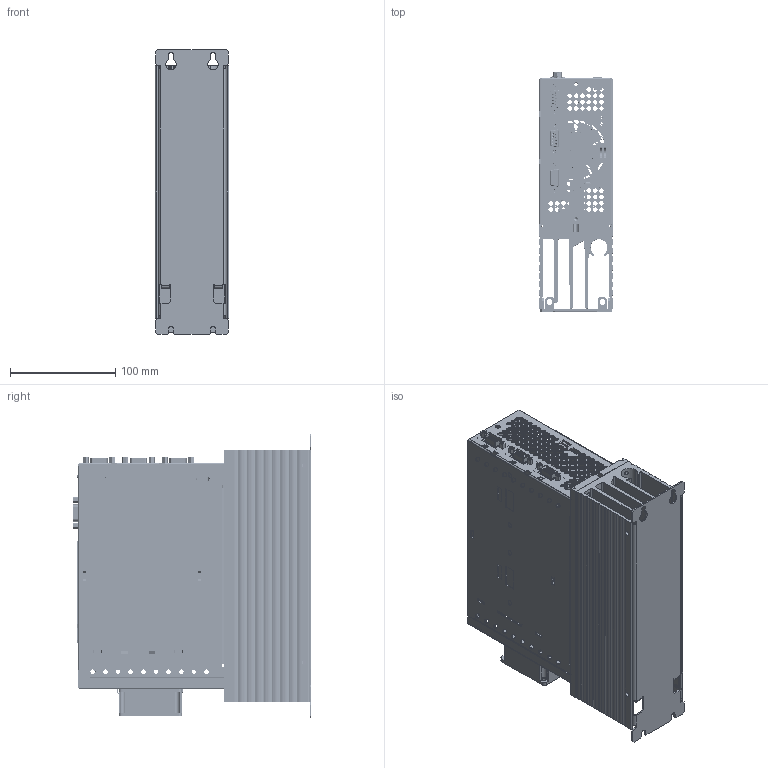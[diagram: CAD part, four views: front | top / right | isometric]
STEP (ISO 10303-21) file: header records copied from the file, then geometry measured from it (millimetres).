
FILE_DESCRIPTION (( 'STEP AP214' ), '1' );
FILE_NAME ('CDD34.006.W.STEP', '2010-09-20T13:13:48', ( 'Bereich' ), ( 'LTi DRiVES GmbH' ), 'SwSTEP 2.0', 'SolidWorks 2008', '' );
FILE_SCHEMA (( 'AUTOMOTIVE_DESIGN' ));
Length unit declared in the file: millimetre
Products named in the file (29): 0890.508.0_Standard; 0890.507.0_Standard; LÜFTER 60X60X25_Standard; 0931.508.0_Standard; DISTANZBOLZEN 107749_Standard; TEST_Standard; D_SUB_9POLIG_108581_Standard; gmstba_2.5-12-g-7.62_Standard; MSTBA_2.5-2-G1_Standard; MSTBA_2.5-2-G(1)1_Standard; D_SUB_15POLIG_Standard; polig-Stift_Standard; CDD34.006.W; 0890.503.0_Standard; 1001.575.0; 0931.502.0_Standard; 0931.520.0_Standard; Steuerprint_Standard; Steuerprint CDB-1; Self-clinching Nut_PMM_PEM S-M4-0 ZI--N; Drucktaster-105902; LED_3FACH_108455-1_Standard; LED_3FACH_108455; D-SUB 9polig 106256-1_Standard; D-SUB 9polig 106256; Drucktaster-105902-1_Standard; mc_1_5-10-g-3_81_Standard; Steuerprint CDB-1_Standard; 0931.500.0-1_Standard
Assembly tree (37 placements, depth 4):
  CDD34.006.W
    DISTANZBOLZEN 107749_Standard  x8
    1001.575.0
      0890.503.0_Standard
      Self-clinching Nut_PMM_PEM S-M4-0 ZI--N  x4
    0931.508.0_Standard
    Steuerprint CDB-1
      Steuerprint_Standard
      mc_1_5-10-g-3_81_Standard  x2
      MSTBA_2.5-2-G(1)1_Standard
        MSTBA_2.5-2-G1_Standard
      LED_3FACH_108455
        LED_3FACH_108455-1_Standard
      D_SUB_15POLIG_Standard
      Drucktaster-105902
        Drucktaster-105902-1_Standard
      polig-Stift_Standard
      D-SUB 9polig 106256
        D-SUB 9polig 106256-1_Standard
    0890.508.0_Standard
    0931.520.0_Standard
    LÜFTER 60X60X25_Standard
    D_SUB_9POLIG_108581_Standard
      TEST_Standard
    0931.502.0_Standard
    gmstba_2.5-12-g-7.62_Standard
    0890.507.0_Standard
  Steuerprint CDB-1_Standard
  0931.500.0-1_Standard
Bounding box: 70 x 226.6 x 270 mm (x, y, z)
Volume: 838185.8 mm3; surface area: 564889.8 mm2
Topology: 31 solids, 31 shells, 5336 faces, 13512 edges, 8546 vertices
Faces by surface type: plane 3417, cylinder 1137, bspline 556, cone 176, torus 28, sphere 22
Entity records: 152039 total; most frequent: CARTESIAN_POINT 31393, ORIENTED_EDGE 21016, DIRECTION 19095, EDGE_CURVE 10508, LINE 7127, VECTOR 7127, VERTEX_POINT 6668, AXIS2_PLACEMENT_3D 5984
